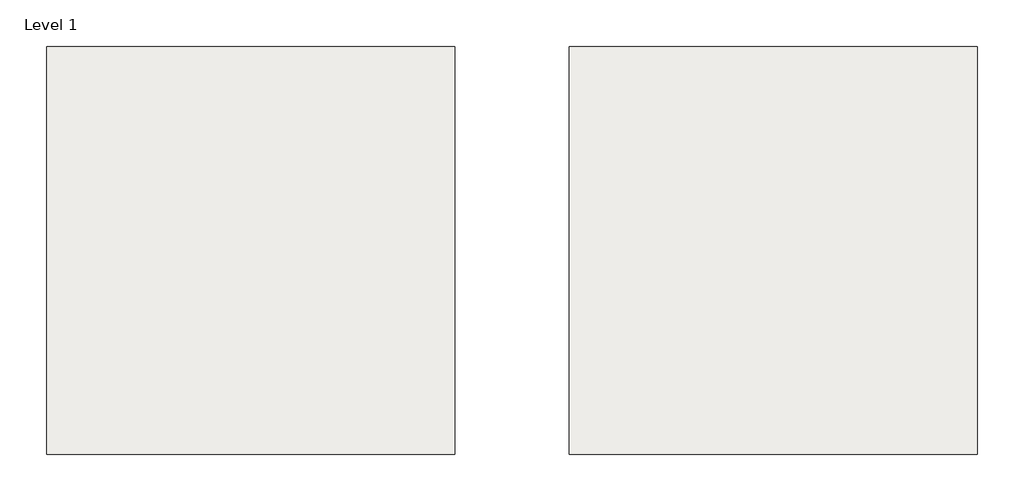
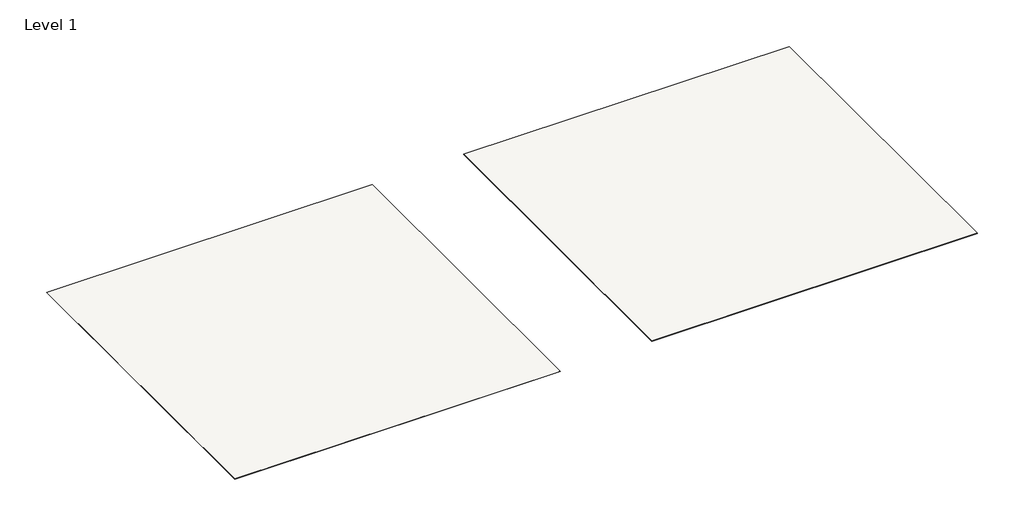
# One storey: 2 coverings.
"""IFC4 building model written with IfcOpenShell, lengths in millimetres."""

from ifc_helpers import new_model, si_unit, frame, origin, place, context, project, spatial, polyline, outline, extrude, element, save

model = new_model("IFC4")

# Units and contexts
model_context = context("Model", 3, world=origin())
ifc_project = project(units=[si_unit("LENGTHUNIT", "METRE", prefix="MILLI")], contexts=[model_context])

# Site, building, storey
site = spatial("IfcSite", under=ifc_project)
building = spatial("IfcBuilding", under=site)
storey = spatial("IfcBuildingStorey", under=building, Name="Level 1", Elevation=0.0)

# Coverings
placement = place(None, origin())
element("IfcCovering", 1, ObjectType="Thesize_Neolith_Amazonico_3200 x 1500 x 6mm+ - Polished", at=placement, inside=storey, context=model_context, shape_type="SweptSolid", body=[
    extrude(outline(polyline([(-29005.5177483, -2141.5586589), (-29005.5177483, -7141.5586589), (-34005.5177483, -7141.5586589), (-34005.5177483, -2141.5586589), (-29005.5177483, -2141.5586589)])), frame((0.0, 0.0, -6.0), z_axis=(0.0, 0.0, 1.0), x_axis=(1.0, 0.0, 0.0)), (0.0, 0.0, 1.0), 6.0),
])
element("IfcCovering", 2, ObjectType="Thesize_Neolith_Amazonico_3200 x 1500 x 6mm+ - Riverwhased", at=placement, inside=storey, context=model_context, shape_type="SweptSolid", body=[
    extrude(outline(polyline([(-22605.5177483, -2141.5586589), (-22605.5177483, -7141.5586589), (-27605.5177483, -7141.5586589), (-27605.5177483, -2141.5586589), (-22605.5177483, -2141.5586589)])), frame((0.0, 0.0, -6.0), z_axis=(0.0, 0.0, 1.0), x_axis=(1.0, 0.0, 0.0)), (0.0, 0.0, 1.0), 6.0),
])

save(model, "model.ifc")
